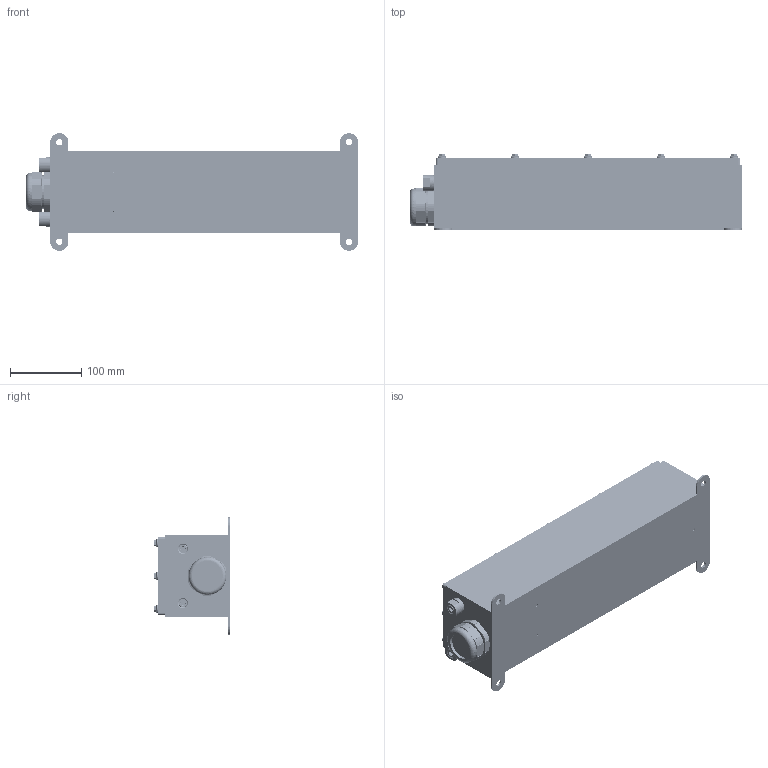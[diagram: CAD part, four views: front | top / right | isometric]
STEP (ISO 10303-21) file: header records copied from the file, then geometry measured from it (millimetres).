
FILE_DESCRIPTION (( 'STEP AP203' ), '1' );
FILE_NAME ('LD-FJ.STEP', '2022-04-19T14:54:38', ( '' ), ( '' ), 'SwSTEP 2.0', 'SolidWorks 2021', '' );
FILE_SCHEMA (( 'CONFIG_CONTROL_DESIGN' ));
Length unit declared in the file: inch
Products named in the file (23): 93805A289_93805A289; 800009; 4452K542_4452K542; PG11-N01; LD-FJ; SP-M5-2; 93625A200; 25037_CAD_Gocator 2490_312490X-X-R-01-T; PG36-S01; 92125A208_92125A208; PG36-I01; 200731; 201149; 800004; 400129; PG36-01-01-01-03; 800005; 400102; PG11-S01; 200732; PG36-N03; PG36-B01; 500130
Assembly tree (55 placements, depth 3):
  LD-FJ
    200731
      200732
      SP-M5-2  x12
      93805A289_93805A289  x3
    201149
    400129
    500130
    800009  x2
    PG11-S01  x2
    PG11-N01  x2
    4452K542_4452K542  x2
    PG36-01-01-01-03
      PG36-B01
      PG36-I01
      PG36-S01
      PG36-N03
    25037_CAD_Gocator 2490_312490X-X-R-01-T
    93625A200  x3
    92125A208_92125A208  x4
    800004  x12
      800005
      400102
Bounding box: 465.8 x 106.67 x 165.1 mm (x, y, z)
Volume: 1702919 mm3; surface area: 657218.1 mm2
Topology: 67 solids, 80 shells, 4979 faces, 13065 edges, 8423 vertices
Faces by surface type: plane 1963, cylinder 1833, cone 592, bspline 574, torus 11, sphere 6
Entity records: 124581 total; most frequent: CARTESIAN_POINT 59776, ORIENTED_EDGE 13850, DIRECTION 11049, EDGE_CURVE 6925, VERTEX_POINT 4467, AXIS2_PLACEMENT_3D 3687, LINE 3675, VECTOR 3675
